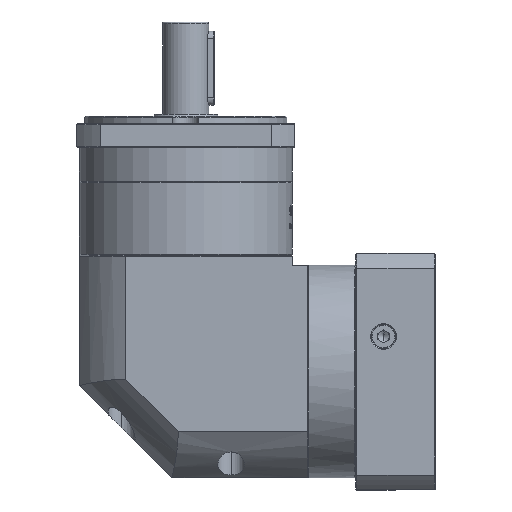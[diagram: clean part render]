
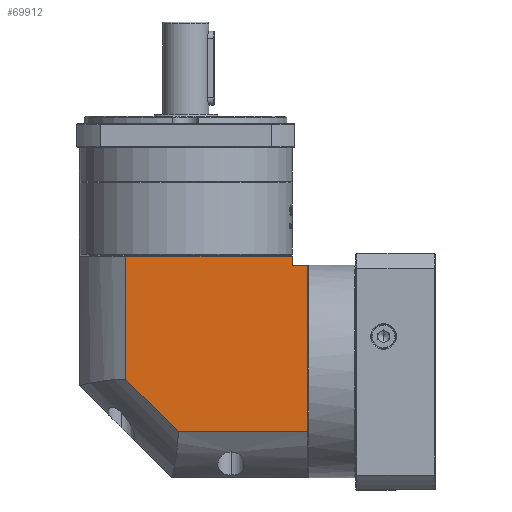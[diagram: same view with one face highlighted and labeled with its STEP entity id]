
A CAD part, left-side view. The second image highlights one B-rep face of the part: STEP entity #69912.
In plain terms, the highlighted planar face has unit normal (-1, 0, 0).
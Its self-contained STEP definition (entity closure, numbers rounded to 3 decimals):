
#6977 = ORIENTED_EDGE ( 'NONE', *, *, #13607, .F. ) ;
#9225 = LINE ( 'NONE', #24903, #166862 ) ;
#13607 = EDGE_CURVE ( 'NONE', #20778, #39228, #27864, .T. ) ;
#13908 = VECTOR ( 'NONE', #88324, 1000. ) ;
#13920 = DIRECTION ( 'NONE',  ( 0., 0., -1. ) ) ;
#15362 = DIRECTION ( 'NONE',  ( 1., 0., 0. ) ) ;
#16482 = CARTESIAN_POINT ( 'NONE',  ( -271.005, -2.655, 72.124 ) ) ;
#20778 = VERTEX_POINT ( 'NONE', #143577 ) ;
#24903 = CARTESIAN_POINT ( 'NONE',  ( -271.005, -56.093, -29.276 ) ) ;
#25999 = VECTOR ( 'NONE', #146281, 1000. ) ;
#26528 = CARTESIAN_POINT ( 'NONE',  ( -271.005, -126.055, 72.124 ) ) ;
#27864 = LINE ( 'NONE', #135028, #93325 ) ;
#29108 = EDGE_CURVE ( 'NONE', #39228, #144976, #93547, .T. ) ;
#32559 = CARTESIAN_POINT ( 'NONE',  ( -271.005, -27.755, 65.624 ) ) ;
#33387 = ORIENTED_EDGE ( 'NONE', *, *, #29108, .F. ) ;
#39228 = VERTEX_POINT ( 'NONE', #32559 ) ;
#40758 = EDGE_CURVE ( 'NONE', #169180, #144976, #122437, .T. ) ;
#48833 = VECTOR ( 'NONE', #13920, 1000. ) ;
#58500 = CARTESIAN_POINT ( 'NONE',  ( -271.005, -56.093, -29.276 ) ) ;
#63025 = VERTEX_POINT ( 'NONE', #58500 ) ;
#63099 = FACE_OUTER_BOUND ( 'NONE', #144190, .T. ) ;
#69416 = LINE ( 'NONE', #157250, #122664 ) ;
#69912 = ADVANCED_FACE ( 'NONE', ( #63099 ), #121171, .F. ) ;
#74175 = ORIENTED_EDGE ( 'NONE', *, *, #40758, .T. ) ;
#75592 = AXIS2_PLACEMENT_3D ( 'NONE', #16482, #15362, #160107 ) ;
#76467 = CARTESIAN_POINT ( 'NONE',  ( -271.005, -2.655, 65.624 ) ) ;
#88324 = DIRECTION ( 'NONE',  ( 0., 0., 1. ) ) ;
#93325 = VECTOR ( 'NONE', #160259, 1000. ) ;
#93547 = LINE ( 'NONE', #76467, #25999 ) ;
#96353 = EDGE_CURVE ( 'NONE', #63025, #20778, #9225, .T. ) ;
#100974 = ORIENTED_EDGE ( 'NONE', *, *, #155340, .T. ) ;
#104030 = DIRECTION ( 'NONE',  ( 0., 1., 0. ) ) ;
#106146 = LINE ( 'NONE', #26528, #48833 ) ;
#108341 = CARTESIAN_POINT ( 'NONE',  ( -271.005, -126.055, 60.624 ) ) ;
#112732 = VERTEX_POINT ( 'NONE', #154322 ) ;
#121171 = PLANE ( 'NONE',  #75592 ) ;
#122437 = LINE ( 'NONE', #140436, #13908 ) ;
#122664 = VECTOR ( 'NONE', #104030, 1000. ) ;
#123475 = ORIENTED_EDGE ( 'NONE', *, *, #163278, .F. ) ;
#126028 = VECTOR ( 'NONE', #164416, 1000. ) ;
#135028 = CARTESIAN_POINT ( 'NONE',  ( -271.005, -27.755, 72.124 ) ) ;
#140091 = VERTEX_POINT ( 'NONE', #108341 ) ;
#140436 = CARTESIAN_POINT ( 'NONE',  ( -271.005, -117.655, -54.376 ) ) ;
#143577 = CARTESIAN_POINT ( 'NONE',  ( -271.005, -27.755, -0.938 ) ) ;
#144190 = EDGE_LOOP ( 'NONE', ( #6977, #162009, #123475, #153174, #100974, #74175, #33387 ) ) ;
#144976 = VERTEX_POINT ( 'NONE', #152874 ) ;
#146281 = DIRECTION ( 'NONE',  ( 0., -1., 0. ) ) ;
#147850 = CARTESIAN_POINT ( 'NONE',  ( -271.005, -117.655, 60.624 ) ) ;
#151336 = EDGE_CURVE ( 'NONE', #140091, #112732, #106146, .T. ) ;
#152874 = CARTESIAN_POINT ( 'NONE',  ( -271.005, -117.655, 65.624 ) ) ;
#153174 = ORIENTED_EDGE ( 'NONE', *, *, #151336, .F. ) ;
#153685 = CARTESIAN_POINT ( 'NONE',  ( -271.005, -117.655, 60.624 ) ) ;
#154322 = CARTESIAN_POINT ( 'NONE',  ( -271.005, -126.055, -29.276 ) ) ;
#155340 = EDGE_CURVE ( 'NONE', #140091, #169180, #160844, .T. ) ;
#157250 = CARTESIAN_POINT ( 'NONE',  ( -271.005, -2.655, -29.276 ) ) ;
#160107 = DIRECTION ( 'NONE',  ( 0., 1., 0. ) ) ;
#160259 = DIRECTION ( 'NONE',  ( 0., 0., 1. ) ) ;
#160844 = LINE ( 'NONE', #147850, #126028 ) ;
#162009 = ORIENTED_EDGE ( 'NONE', *, *, #96353, .F. ) ;
#163278 = EDGE_CURVE ( 'NONE', #112732, #63025, #69416, .T. ) ;
#164416 = DIRECTION ( 'NONE',  ( 0., 1., 0. ) ) ;
#166862 = VECTOR ( 'NONE', #168479, 1000. ) ;
#168479 = DIRECTION ( 'NONE',  ( 0., 0.707, 0.707 ) ) ;
#169180 = VERTEX_POINT ( 'NONE', #153685 ) ;
